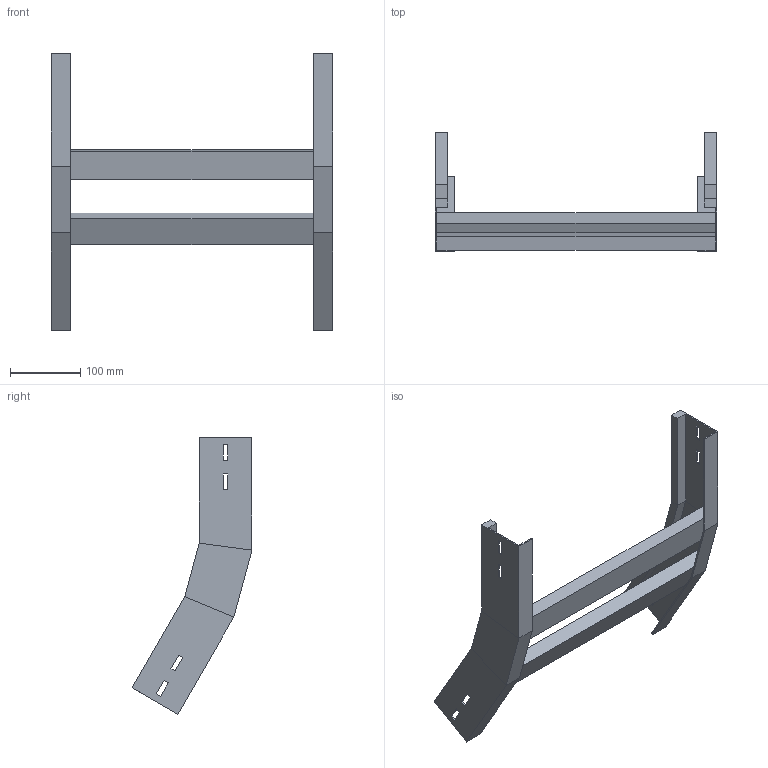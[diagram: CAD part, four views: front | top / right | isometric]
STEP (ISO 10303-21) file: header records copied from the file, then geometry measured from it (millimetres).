
FILE_DESCRIPTION (( 'STEP AP214' ), '1' );
FILE_NAME ('A2X32B3C400XX.step', '2025-03-20T10:01:31', ( '' ), ( '' ), 'SwSTEP 2.0', 'SolidWorks 2023', '' );
FILE_SCHEMA (( 'AUTOMOTIVE_DESIGN' ));
Length unit declared in the file: millimetre
Products named in the file (3): LONGH.SALITA_30°_H75_R300; A2X32B3C400XX; TRAVERSINO_400
Assembly tree (4 placements, depth 2):
  A2X32B3C400XX
    LONGH.SALITA_30°_H75_R300  x2
    TRAVERSINO_400  x2
Bounding box: 400 x 170.24 x 392.95 mm (x, y, z)
Volume: 946602.7 mm3; surface area: 287797.9 mm2
Topology: 4 solids, 4 shells, 96 faces, 232 edges, 144 vertices
Faces by surface type: plane 96
Entity records: 1472 total; most frequent: CARTESIAN_POINT 243, ORIENTED_EDGE 232, DIRECTION 226, EDGE_CURVE 116, LINE 116, VECTOR 116, VERTEX_POINT 72, EDGE_LOOP 56
